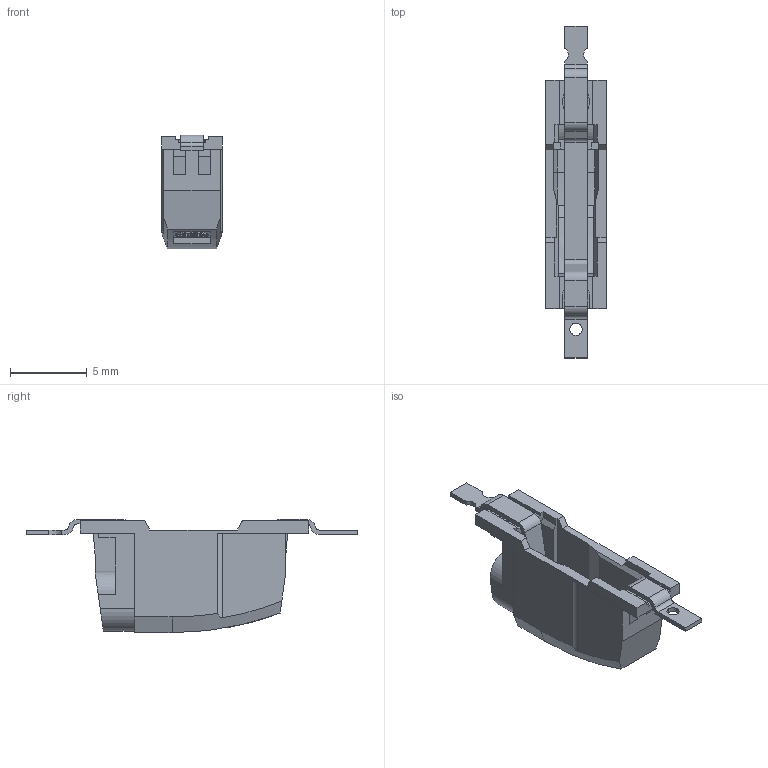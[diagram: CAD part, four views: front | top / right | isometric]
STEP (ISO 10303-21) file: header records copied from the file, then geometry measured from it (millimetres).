
FILE_DESCRIPTION(('CAx-IF Rec.Pracs.---Model Styling and Organization---1.2---2011-12-15','CAx-IF Rec.Pracs.---Geometric and Assembly Validation Properties---4.1---2014-06-16','CAx-IF Rec.Pracs.---PMI Polyline Presentation---2.0---2013-05-24'),'2;1');
FILE_NAME('01VYD01Y0U.stp','2018-12-10T07:50:53+01:00',(''),(''),'STEP Interface 4.2 by CT CoreTechnologie','3D_Evolution4.2 by CT CoreTechnologie','');
FILE_SCHEMA(('AUTOMOTIVE_DESIGN { 1 0 10303 214 1 1 1 1 }'));
Length unit declared in the file: millimetre
Products named in the file (1): 01VYD01Y0U
Bounding box: 3.95 x 21.66 x 7.4 mm (x, y, z)
Volume: 156.2 mm3; surface area: 599.3 mm2
Topology: 1 solids, 1 shells, 291 faces, 843 edges, 560 vertices
Faces by surface type: plane 205, cylinder 71, bspline 15
Entity records: 22494 total; most frequent: CARTESIAN_POINT 3028, ORIENTED_EDGE 1686, PROPERTY_DEFINITION 1602, DIRECTION 1489, EDGE_CURVE 843, SHAPE_REPRESENTATION 802, SHAPE_DEFINITION_REPRESENTATION 802, INTEGER_REPRESENTATION_ITEM 801
